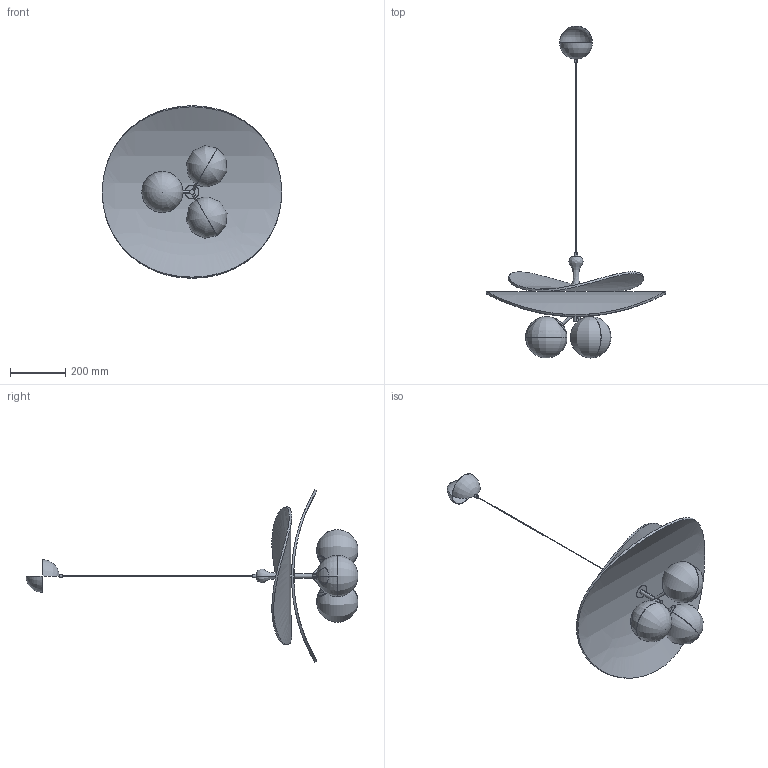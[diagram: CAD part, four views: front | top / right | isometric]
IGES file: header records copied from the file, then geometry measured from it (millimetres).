
Start section: SolidWorks IGES file using analytic representation for surfaces
Global section: file name: F:\燠隴矨\3D\2026-1\Bloom Petals Chandelier-D65cm.IGS,15; native system: HSolidWorks 2022; preprocessor: SolidWorks 2022; author: MyPC; date: 260106.094017; units: millimetre
Bounding box: 649.96 x 1203.42 x 624.65 mm (x, y, z)
Surface area: 1681348 mm2 (no closed solid volume)
Topology: 0 solids, 0 shells, 97 faces, 3426 edges, 3410 vertices
Faces by surface type: revolution 56, bspline 41
